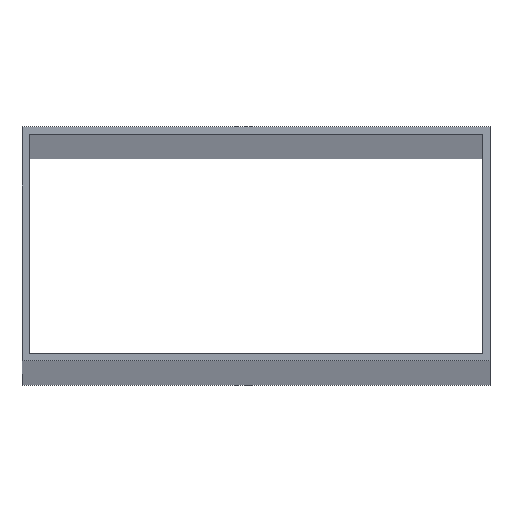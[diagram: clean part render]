
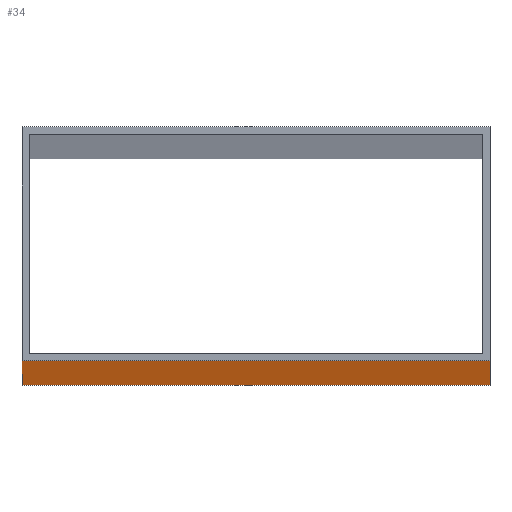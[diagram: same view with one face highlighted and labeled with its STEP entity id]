
A CAD part, top view. The second image highlights one B-rep face of the part: STEP entity #34.
In plain terms, the highlighted planar face has unit normal (0, -1, 0).
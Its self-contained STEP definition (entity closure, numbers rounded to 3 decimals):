
#4 = DIRECTION ( 'NONE',  ( 0., 1., 0. ) ) ;
#10 = DIRECTION ( 'NONE',  ( 0., 0., 1. ) ) ;
#34 = ADVANCED_FACE ( 'NONE', ( #176 ), #356, .F. ) ;
#45 = CARTESIAN_POINT ( 'NONE',  ( 25., -12.5, 1500. ) ) ;
#50 = CARTESIAN_POINT ( 'NONE',  ( -25., -12.5, 1500. ) ) ;
#83 = ORIENTED_EDGE ( 'NONE', *, *, #135, .F. ) ;
#85 = LINE ( 'NONE', #115, #380 ) ;
#108 = VERTEX_POINT ( 'NONE', #109 ) ;
#109 = CARTESIAN_POINT ( 'NONE',  ( 25., -12.5, 0. ) ) ;
#115 = CARTESIAN_POINT ( 'NONE',  ( -25., -12.5, 1500. ) ) ;
#135 = EDGE_CURVE ( 'NONE', #330, #430, #85, .T. ) ;
#150 = ORIENTED_EDGE ( 'NONE', *, *, #294, .T. ) ;
#155 = CARTESIAN_POINT ( 'NONE',  ( -25., -12.5, 0. ) ) ;
#157 = CARTESIAN_POINT ( 'NONE',  ( -25., -12.5, 1500. ) ) ;
#163 = ORIENTED_EDGE ( 'NONE', *, *, #304, .T. ) ;
#164 = LINE ( 'NONE', #399, #205 ) ;
#170 = ORIENTED_EDGE ( 'NONE', *, *, #348, .F. ) ;
#176 = FACE_OUTER_BOUND ( 'NONE', #230, .T. ) ;
#189 = DIRECTION ( 'NONE',  ( 1., 0., 0. ) ) ;
#205 = VECTOR ( 'NONE', #389, 1000. ) ;
#224 = VECTOR ( 'NONE', #321, 1000. ) ;
#226 = DIRECTION ( 'NONE',  ( 0., 0., -1. ) ) ;
#230 = EDGE_LOOP ( 'NONE', ( #150, #170, #83, #163 ) ) ;
#244 = VERTEX_POINT ( 'NONE', #155 ) ;
#274 = AXIS2_PLACEMENT_3D ( 'NONE', #50, #4, #10 ) ;
#294 = EDGE_CURVE ( 'NONE', #244, #108, #164, .T. ) ;
#304 = EDGE_CURVE ( 'NONE', #330, #244, #373, .T. ) ;
#312 = LINE ( 'NONE', #426, #325 ) ;
#321 = DIRECTION ( 'NONE',  ( 0., 0., -1. ) ) ;
#325 = VECTOR ( 'NONE', #226, 1000. ) ;
#330 = VERTEX_POINT ( 'NONE', #157 ) ;
#348 = EDGE_CURVE ( 'NONE', #430, #108, #312, .T. ) ;
#356 = PLANE ( 'NONE',  #274 ) ;
#373 = LINE ( 'NONE', #416, #224 ) ;
#380 = VECTOR ( 'NONE', #189, 1000. ) ;
#389 = DIRECTION ( 'NONE',  ( 1., 0., 0. ) ) ;
#399 = CARTESIAN_POINT ( 'NONE',  ( -25., -12.5, 0. ) ) ;
#416 = CARTESIAN_POINT ( 'NONE',  ( -25., -12.5, 1500. ) ) ;
#426 = CARTESIAN_POINT ( 'NONE',  ( 25., -12.5, 1500. ) ) ;
#430 = VERTEX_POINT ( 'NONE', #45 ) ;
